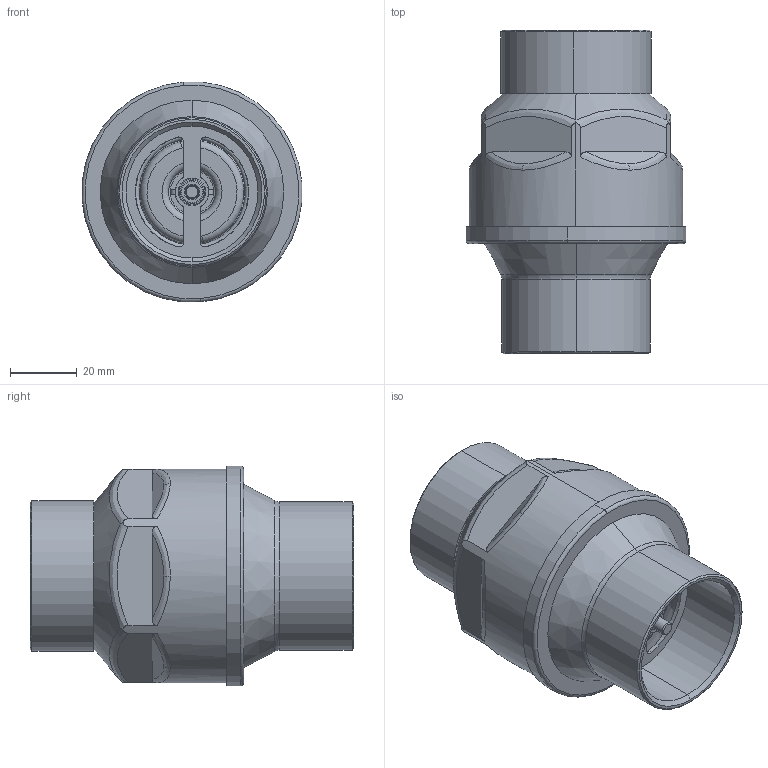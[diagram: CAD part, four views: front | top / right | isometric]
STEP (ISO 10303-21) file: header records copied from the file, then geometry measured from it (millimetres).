
FILE_DESCRIPTION (( 'STEP AP203' ), '1' );
FILE_NAME ('06N1710 G 1 1_4.STEP', '2021-02-18T12:38:52', ( '' ), ( '' ), 'SwSTEP 2.0', 'SolidWorks 2016', '' );
FILE_SCHEMA (( 'CONFIG_CONTROL_DESIGN' ));
Length unit declared in the file: millimetre
Products named in the file (16): 06H2001; 05M9502 X 1 1_4; 06F97003 X 1 1_4; 06I0608 X 1 1_4; 06I0607 X 1 1_4; 06N1713; 06N1712; 06I9610 X 1 1_4; 06I9603 X 1 1_4; 06D1814; 05D1810; 06N1710 G 1 1_4; 06N1711; 04D9905 X 1 1_4; 06M1778; 06I9604 X 1 1_4
Assembly tree (15 placements, depth 3):
  06N1710 G 1 1_4
    06I9604 X 1 1_4
    06I9610 X 1 1_4
    04D9905 X 1 1_4
    06I9603 X 1 1_4
    06N1711
      06N1712
      06H2001
    05M9502 X 1 1_4
    06I0607 X 1 1_4
    06I0608 X 1 1_4
    06F97003 X 1 1_4
    06M1778
    06D1814
      06N1713
      05D1810
Bounding box: 65.89 x 96.9 x 65.89 mm (x, y, z)
Volume: 43209 mm3; surface area: 59013.1 mm2
Topology: 13 solids, 13 shells, 410 faces, 1020 edges, 645 vertices
Faces by surface type: cylinder 136, plane 120, torus 69, cone 47, bspline 38
Entity records: 20161 total; most frequent: CARTESIAN_POINT 8734, DIRECTION 2114, ORIENTED_EDGE 2040, EDGE_CURVE 1020, AXIS2_PLACEMENT_3D 876, VERTEX_POINT 645, CIRCLE 484, EDGE_LOOP 455
